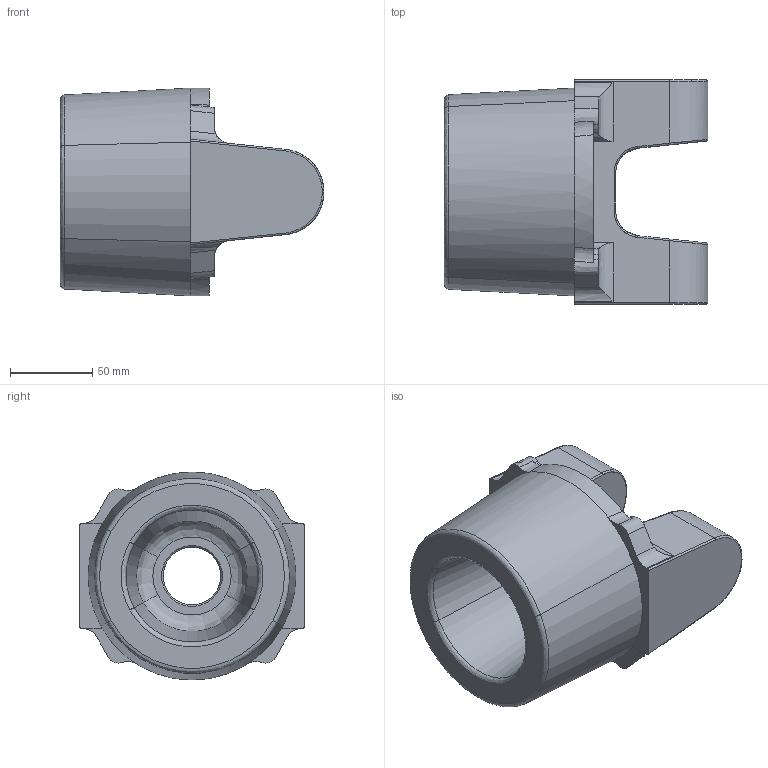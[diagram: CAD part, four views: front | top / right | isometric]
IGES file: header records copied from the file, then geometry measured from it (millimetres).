
Start section: START RECORD GO HERE.
Global section: file name: BOITIER IRREVERSIBILITE PIECE BRUTE bis.igs; native system: IBM CATIA IGES - CATIA Version 5 Release 18 ; preprocessor: CATIA Version 5 Release 18 ; author: Propriétaire; organization: FUJITSU-79916BB; date: 20090111.155405; units: millimetre
Bounding box: 160 x 136 x 126 mm (x, y, z)
Surface area: 98352.1 mm2 (no closed solid volume)
Topology: 0 solids, 0 shells, 110 faces, 595 edges, 595 vertices
Faces by surface type: revolution 54, plane 34, extrusion 12, bspline 10
